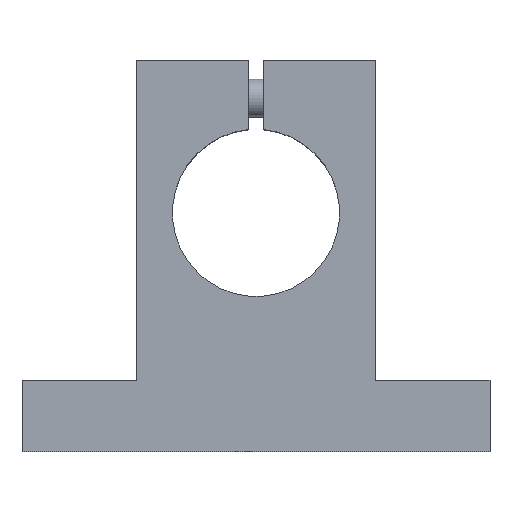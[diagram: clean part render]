
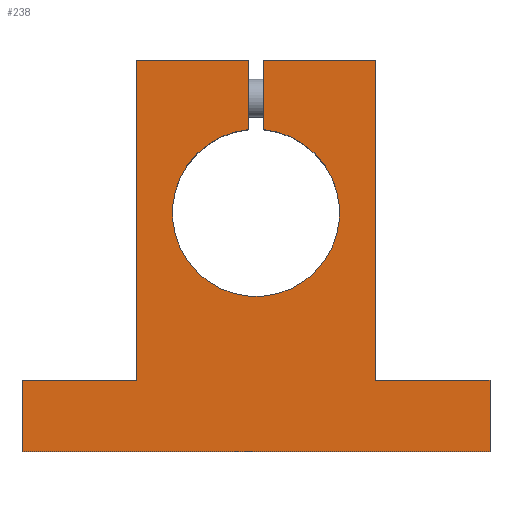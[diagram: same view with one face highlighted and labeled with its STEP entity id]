
A CAD part, top view. The second image highlights one B-rep face of the part: STEP entity #238.
In plain terms, the highlighted planar face has unit normal (0, 0, 1).
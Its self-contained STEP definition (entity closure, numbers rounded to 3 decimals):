
#238=ADVANCED_FACE('',(#618),#620,.T.);
#618=FACE_BOUND('',#619,.T.);
#619=EDGE_LOOP('',(#929,#930,#931,#932,#933,#934,#935,#936,#937,#938,#939,#940));
#620=PLANE('',#621);
#621=AXIS2_PLACEMENT_3D('',#622,#623,#624);
#622=CARTESIAN_POINT('',(0.,0.,16.));
#623=DIRECTION('',(0.,0.,1.));
#624=DIRECTION('',(1.,0.,0.));
#929=ORIENTED_EDGE('',*,*,#1090,.T.);
#930=ORIENTED_EDGE('',*,*,#1091,.T.);
#931=ORIENTED_EDGE('',*,*,#1092,.T.);
#932=ORIENTED_EDGE('',*,*,#1093,.T.);
#933=ORIENTED_EDGE('',*,*,#1094,.T.);
#934=ORIENTED_EDGE('',*,*,#1095,.T.);
#935=ORIENTED_EDGE('',*,*,#1096,.T.);
#936=ORIENTED_EDGE('',*,*,#1097,.T.);
#937=ORIENTED_EDGE('',*,*,#1071,.T.);
#938=ORIENTED_EDGE('',*,*,#1089,.T.);
#939=ORIENTED_EDGE('',*,*,#1077,.T.);
#940=ORIENTED_EDGE('',*,*,#1098,.T.);
#1071=EDGE_CURVE('',#1161,#1159,#1162,.T.);
#1077=EDGE_CURVE('',#1173,#1171,#1174,.T.);
#1089=EDGE_CURVE('',#1159,#1173,#1194,.T.);
#1090=EDGE_CURVE('',#1195,#1196,#1197,.T.);
#1091=EDGE_CURVE('',#1196,#1198,#1199,.T.);
#1092=EDGE_CURVE('',#1198,#1200,#1201,.T.);
#1093=EDGE_CURVE('',#1200,#1202,#1203,.T.);
#1094=EDGE_CURVE('',#1202,#1204,#1205,.T.);
#1095=EDGE_CURVE('',#1204,#1206,#1207,.T.);
#1096=EDGE_CURVE('',#1206,#1208,#1209,.T.);
#1097=EDGE_CURVE('',#1208,#1161,#1210,.T.);
#1098=EDGE_CURVE('',#1171,#1195,#1211,.T.);
#1159=VERTEX_POINT('',#1313);
#1161=VERTEX_POINT('',#1317);
#1162=LINE('',#1318,#1319);
#1171=VERTEX_POINT('',#1339);
#1173=VERTEX_POINT('',#1343);
#1174=LINE('',#1344,#1345);
#1194=LINE('',#1389,#1390);
#1195=VERTEX_POINT('',#1392);
#1196=VERTEX_POINT('',#1393);
#1197=LINE('',#1394,#1395);
#1198=VERTEX_POINT('',#1397);
#1199=LINE('',#1398,#1399);
#1200=VERTEX_POINT('',#1401);
#1201=LINE('',#1402,#1403);
#1202=VERTEX_POINT('',#1405);
#1203=LINE('',#1406,#1407);
#1204=VERTEX_POINT('',#1409);
#1205=LINE('',#1410,#1411);
#1206=VERTEX_POINT('',#1413);
#1207=LINE('',#1414,#1415);
#1208=VERTEX_POINT('',#1417);
#1209=LINE('',#1418,#1419);
#1210=LINE('',#1421,#1422);
#1211=CIRCLE('',#1424,17.5);
#1313=CARTESIAN_POINT('',(25.,47.,16.));
#1317=CARTESIAN_POINT('',(25.,-20.,16.));
#1318=CARTESIAN_POINT('',(25.,-20.,16.));
#1319=VECTOR('',#1320,1.);
#1320=DIRECTION('',(0.,1.,0.));
#1339=CARTESIAN_POINT('',(1.5,32.436,16.));
#1343=CARTESIAN_POINT('',(1.5,47.,16.));
#1344=CARTESIAN_POINT('',(1.5,47.,16.));
#1345=VECTOR('',#1346,1.);
#1346=DIRECTION('',(0.,-1.,0.));
#1389=CARTESIAN_POINT('',(25.,47.,16.));
#1390=VECTOR('',#1391,1.);
#1391=DIRECTION('',(-1.,0.,0.));
#1392=CARTESIAN_POINT('',(-1.5,32.436,16.));
#1393=CARTESIAN_POINT('',(-1.5,47.,16.));
#1394=CARTESIAN_POINT('',(-1.5,32.436,16.));
#1395=VECTOR('',#1396,1.);
#1396=DIRECTION('',(0.,1.,0.));
#1397=CARTESIAN_POINT('',(-25.,47.,16.));
#1398=CARTESIAN_POINT('',(-1.5,47.,16.));
#1399=VECTOR('',#1400,1.);
#1400=DIRECTION('',(-1.,0.,0.));
#1401=CARTESIAN_POINT('',(-25.,-20.,16.));
#1402=CARTESIAN_POINT('',(-25.,47.,16.));
#1403=VECTOR('',#1404,1.);
#1404=DIRECTION('',(0.,-1.,0.));
#1405=CARTESIAN_POINT('',(-49.,-20.,16.));
#1406=CARTESIAN_POINT('',(-25.,-20.,16.));
#1407=VECTOR('',#1408,1.);
#1408=DIRECTION('',(-1.,0.,0.));
#1409=CARTESIAN_POINT('',(-49.,-35.,16.));
#1410=CARTESIAN_POINT('',(-49.,-20.,16.));
#1411=VECTOR('',#1412,1.);
#1412=DIRECTION('',(0.,-1.,0.));
#1413=CARTESIAN_POINT('',(49.,-35.,16.));
#1414=CARTESIAN_POINT('',(-49.,-35.,16.));
#1415=VECTOR('',#1416,1.);
#1416=DIRECTION('',(1.,0.,0.));
#1417=CARTESIAN_POINT('',(49.,-20.,16.));
#1418=CARTESIAN_POINT('',(49.,-35.,16.));
#1419=VECTOR('',#1420,1.);
#1420=DIRECTION('',(0.,1.,0.));
#1421=CARTESIAN_POINT('',(49.,-20.,16.));
#1422=VECTOR('',#1423,1.);
#1423=DIRECTION('',(-1.,0.,0.));
#1424=AXIS2_PLACEMENT_3D('',#1425,#1426,#1427);
#1425=CARTESIAN_POINT('',(0.,15.,16.));
#1426=DIRECTION('',(0.,0.,-1.));
#1427=DIRECTION('',(0.086,0.996,0.));
